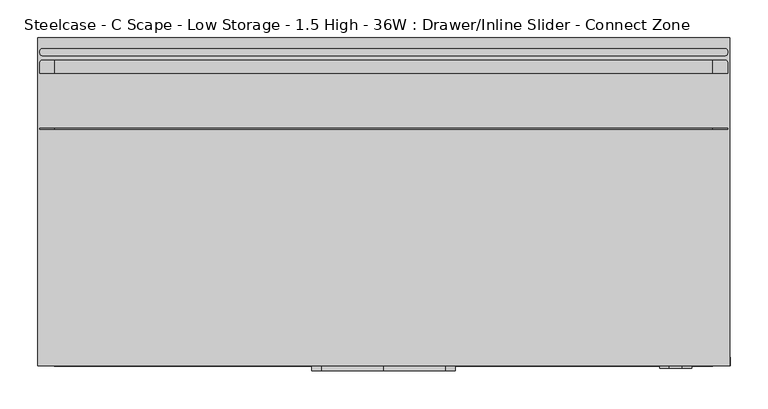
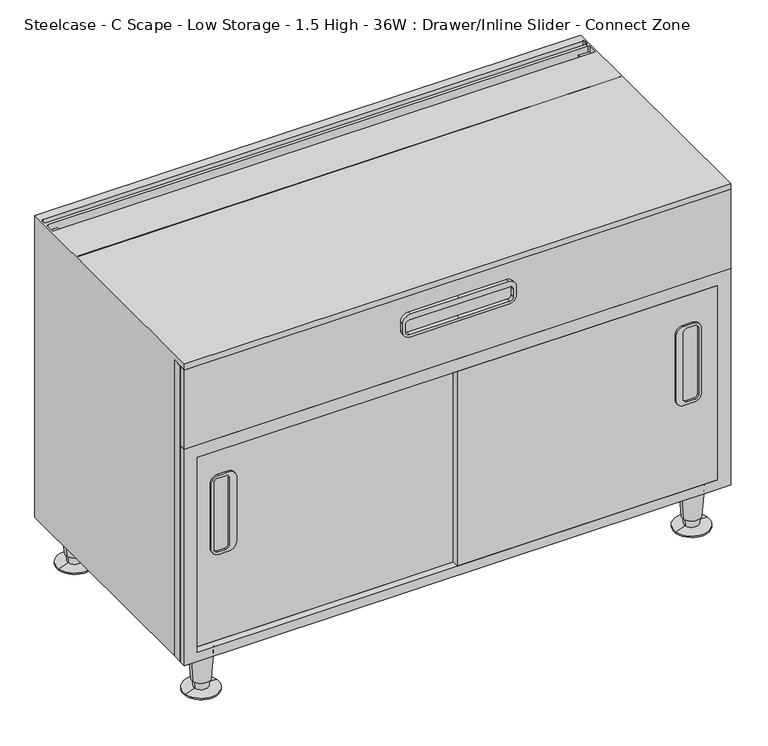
"""IFC4 building model written with IfcOpenShell, lengths in millimetres: furniture geometry, Steelcase - C Scape - Low Storage - 1.5 High - 36W : Drawer/Inline Slider - Connect Zone."""

from ifc_helpers import new_model, si_unit, point, frame, frame_2d, origin, place, context, project, spatial, polyline, circle_curve, trimmed, segment, composite_curve, outline, extrude, source, transform, mapped, element, save
from ifc_brep_helpers import plane_surface, cylinder_surface, revolved_surface, advanced_brep


def steelcase_c_scape_low_storage_1_5_high_36w_drawer_inline_729254a0(model_context):
    return source(origin(), model_context, "Body", "SolidModel", [
        extrude(outline(composite_curve([segment(trimmed(circle_curve(frame_2d((373.5963095, 833.2465039)), 12.7015503), [point((386.2978598, 833.2465039))], [point((373.5963095, 820.5449536))], False, "CARTESIAN"), True, "CONTINUOUS"), segment(polyline([(373.5963095, 820.5449536), (259.2993979, 820.5449536)]), True, "CONTINUOUS"), segment(trimmed(circle_curve(frame_2d((259.2993979, 833.2465039)), 12.7015503), [point((259.2993979, 820.5449536))], [point((246.5978477, 833.2465039))], False, "CARTESIAN"), True, "CONTINUOUS"), segment(polyline([(246.5978477, 833.2465039), (246.5978477, 850.1353895)]), True, "CONTINUOUS"), segment(trimmed(circle_curve(frame_2d((259.2978537, 850.1353895)), 12.7000061), [point((246.5978477, 850.1353895))], [point((259.2978537, 862.8353955))], False, "CARTESIAN"), True, "CONTINUOUS"), segment(polyline([(259.2978537, 862.8353955), (373.6009603, 862.8353955)]), True, "CONTINUOUS"), segment(trimmed(circle_curve(frame_2d((373.6009603, 850.1384961)), 12.6968994), [point((373.6009603, 862.8353955))], [point((386.2978598, 850.1384961))], False, "CARTESIAN"), True, "CONTINUOUS"), segment(polyline([(386.2978598, 850.1384961), (386.2978598, 833.2465039)]), True, "CONTINUOUS")], self_intersect=False), holes=[composite_curve([segment(trimmed(circle_curve(frame_2d((257.7496016, 851.6593335)), 6.3531006), [point((257.7496016, 858.0124341))], [point((251.396501, 851.6593335))], True, "CARTESIAN"), True, "CONTINUOUS"), segment(polyline([(251.396501, 851.6593335), (251.396501, 838.9624341)]), True, "CONTINUOUS"), segment(trimmed(circle_curve(frame_2d((257.7496016, 838.9624341)), 6.3531006), [point((251.396501, 838.9624341))], [point((257.7496016, 832.6093335))], True, "CARTESIAN"), True, "CONTINUOUS"), segment(polyline([(257.7496016, 832.6093335), (375.0913854, 832.6093335)]), True, "CONTINUOUS"), segment(trimmed(circle_curve(frame_2d((375.0913854, 838.9624341)), 6.3531006), [point((375.0913854, 832.6093335))], [point((381.444486, 838.9624341))], True, "CARTESIAN"), True, "CONTINUOUS"), segment(polyline([(381.444486, 838.9624341), (381.444486, 851.6593335)]), True, "CONTINUOUS"), segment(trimmed(circle_curve(frame_2d((375.0913854, 851.6593335)), 6.3531006), [point((381.444486, 851.6593335))], [point((375.0913854, 858.0124341))], True, "CARTESIAN"), True, "CONTINUOUS"), segment(polyline([(375.0913854, 858.0124341), (257.7496016, 858.0124341)]), True, "CONTINUOUS")], self_intersect=False)]), frame((0.0, -436.1182586, 0.0), z_axis=(0.0, 1.0, 0.0), x_axis=(0.0, 0.0, 1.0)), (0.0, 0.0, 1.0), 3.0482586),
        extrude(outline(composite_curve([segment(polyline([(386.2978598, 79.2484961), (386.2978598, 62.3565039)]), True, "CONTINUOUS"), segment(trimmed(circle_curve(frame_2d((373.6009603, 62.3565039)), 12.6968994), [point((386.2978598, 62.3565039))], [point((373.6009603, 49.6596045))], False, "CARTESIAN"), True, "CONTINUOUS"), segment(polyline([(373.6009603, 49.6596045), (259.2978537, 49.6596045)]), True, "CONTINUOUS"), segment(trimmed(circle_curve(frame_2d((259.2978537, 62.3596105)), 12.7000061), [point((259.2978537, 49.6596045))], [point((246.5978477, 62.3596105))], False, "CARTESIAN"), True, "CONTINUOUS"), segment(polyline([(246.5978477, 62.3596105), (246.5978477, 79.2484961)]), True, "CONTINUOUS"), segment(trimmed(circle_curve(frame_2d((259.2993979, 79.2484961)), 12.7015503), [point((246.5978477, 79.2484961))], [point((259.2993979, 91.9500464))], False, "CARTESIAN"), True, "CONTINUOUS"), segment(polyline([(259.2993979, 91.9500464), (373.5963095, 91.9500464)]), True, "CONTINUOUS"), segment(trimmed(circle_curve(frame_2d((373.5963095, 79.2484961)), 12.7015503), [point((373.5963095, 91.9500464))], [point((386.2978598, 79.2484961))], False, "CARTESIAN"), True, "CONTINUOUS")], self_intersect=False), holes=[composite_curve([segment(polyline([(257.7496016, 54.4825659), (375.0913854, 54.4825659)]), True, "CONTINUOUS"), segment(trimmed(circle_curve(frame_2d((375.0913854, 60.8356665)), 6.3531006), [point((375.0913854, 54.4825659))], [point((381.444486, 60.8356665))], True, "CARTESIAN"), True, "CONTINUOUS"), segment(polyline([(381.444486, 60.8356665), (381.444486, 73.5325659)]), True, "CONTINUOUS"), segment(trimmed(circle_curve(frame_2d((375.0913854, 73.5325659)), 6.3531006), [point((381.444486, 73.5325659))], [point((375.0913854, 79.8856665))], True, "CARTESIAN"), True, "CONTINUOUS"), segment(polyline([(375.0913854, 79.8856665), (257.7496016, 79.8856665)]), True, "CONTINUOUS"), segment(trimmed(circle_curve(frame_2d((257.7496016, 73.5325659)), 6.3531006), [point((257.7496016, 79.8856665))], [point((251.396501, 73.5325659))], True, "CARTESIAN"), True, "CONTINUOUS"), segment(polyline([(251.396501, 73.5325659), (251.396501, 60.8356665)]), True, "CONTINUOUS"), segment(trimmed(circle_curve(frame_2d((257.7496016, 60.8356665)), 6.3531006), [point((251.396501, 60.8356665))], [point((257.7496016, 54.4825659))], True, "CARTESIAN"), True, "CONTINUOUS")], self_intersect=False)]), frame((0.0, -424.7213475, 0.0), z_axis=(0.0, 1.0, 0.0), x_axis=(0.0, 0.0, 1.0)), (0.0, 0.0, 1.0), 3.0770066),
        extrude(outline(polyline([(458.7875121, 913.765), (458.7875121, 0.0), (76.2, 0.0), (76.2, 913.765), (458.7875121, 913.765)]), holes=[polyline([(436.8419, 891.1617285), (92.7100024, 891.1617285), (92.7100024, 21.3382324), (436.8419, 21.3382324), (436.8419, 891.1617285)])]), frame((0.0, -433.07, 0.0), z_axis=(0.0, 1.0, 0.0), x_axis=(0.0, 0.0, 1.0)), (0.0, 0.0, 1.0), 11.4256592),
        extrude(outline(polyline([(76.2, 0.0), (76.2, 913.13), (599.44, 913.13), (599.44, 0.0), (76.2, 0.0)]), holes=[polyline([(458.7875121, 891.1617285), (458.7875121, 21.3382324), (582.93, 21.3382324), (582.93, 891.1617285), (458.7875121, 891.1617285)]), polyline([(92.7100024, 891.1617285), (92.7100024, 21.3382324), (436.8419, 21.3382324), (436.8419, 891.1617285), (92.7100024, 891.1617285)])]), frame((0.0, -421.6443408, 0.0), z_axis=(0.0, 1.0, 0.0), x_axis=(0.0, 0.0, 1.0)), (0.0, 0.0, 1.0), 17.2762904),
        extrude(outline(composite_curve([segment(trimmed(circle_curve(frame_2d((558.165, 374.0147442)), 12.7), [point((570.865, 374.0147442))], [point((558.165, 361.3147442))], False, "CARTESIAN"), True, "CONTINUOUS"), segment(polyline([(558.165, 361.3147442), (543.5600291, 361.3147442)]), True, "CONTINUOUS"), segment(trimmed(circle_curve(frame_2d((543.5600291, 374.0147442)), 12.7), [point((543.5600291, 361.3147442))], [point((530.8600291, 374.0147442))], False, "CARTESIAN"), True, "CONTINUOUS"), segment(polyline([(530.8600291, 374.0147442), (530.8600291, 456.2475), (530.8600291, 538.4802558)]), True, "CONTINUOUS"), segment(trimmed(circle_curve(frame_2d((543.5600291, 538.4802558)), 12.7), [point((530.8600291, 538.4802558))], [point((543.5600291, 551.1802558))], False, "CARTESIAN"), True, "CONTINUOUS"), segment(polyline([(543.5600291, 551.1802558), (558.165, 551.1802558)]), True, "CONTINUOUS"), segment(trimmed(circle_curve(frame_2d((558.165, 538.4802558)), 12.7), [point((558.165, 551.1802558))], [point((570.865, 538.4802558))], False, "CARTESIAN"), True, "CONTINUOUS"), segment(polyline([(570.865, 538.4802558), (570.865, 456.2475), (570.865, 374.0147442)]), True, "CONTINUOUS")], self_intersect=False), holes=[composite_curve([segment(trimmed(circle_curve(frame_2d((554.7360184, 372.4923565)), 6.35), [point((554.7360184, 366.1423565))], [point((561.0860184, 372.4923565))], True, "CARTESIAN"), True, "CONTINUOUS"), segment(polyline([(561.0860184, 372.4923565), (561.0860184, 456.2475), (561.0860184, 540.0026435)]), True, "CONTINUOUS"), segment(trimmed(circle_curve(frame_2d((554.7360184, 540.0026435)), 6.35), [point((561.0860184, 540.0026435))], [point((554.7360184, 546.3526435))], True, "CARTESIAN"), True, "CONTINUOUS"), segment(polyline([(554.7360184, 546.3526435), (542.0360063, 546.3526435)]), True, "CONTINUOUS"), segment(trimmed(circle_curve(frame_2d((542.0360063, 540.0026435)), 6.35), [point((542.0360063, 546.3526435))], [point((535.6860063, 540.0026435))], True, "CARTESIAN"), True, "CONTINUOUS"), segment(polyline([(535.6860063, 540.0026435), (535.6860063, 456.2475), (535.6860063, 372.4923565)]), True, "CONTINUOUS"), segment(trimmed(circle_curve(frame_2d((542.0360063, 372.4923565)), 6.35), [point((535.6860063, 372.4923565))], [point((542.0360063, 366.1423565))], True, "CARTESIAN"), True, "CONTINUOUS"), segment(polyline([(542.0360063, 366.1423565), (554.7360184, 366.1423565)]), True, "CONTINUOUS")], self_intersect=False)]), frame((0.0, -439.42, 0.0), z_axis=(0.0, 1.0, 0.0), x_axis=(0.0, 0.0, 1.0)), (0.0, 0.0, 1.0), 6.35),
        advanced_brep(
        [(885.8598695, -31.5218435, 76.2), (848.1981305, -37.2840847, 76.2), (867.029, -34.4029641, 76.2), (881.9095214, -32.1262463, 19.05), (852.1484786, -36.6796819, 19.05), (879.4799345, -32.4979728, 19.05), (854.5780655, -36.3079555, 19.05), (878.791165, -32.6033544, 5.7545598), (855.266835, -36.2025738, 5.7545598), (896.1400485, -29.9489775, 2.5119506), (837.9179515, -38.8569507, 2.5119506), (896.1400485, -29.9489775, 0.0), (837.9179515, -38.8569507, 0.0), (867.029, -34.4029641, 0.0)],
        [
            (0, 1, circle_curve(frame((867.029, -34.4029641, 76.2), z_axis=(0.0, 0.0, 1.0), x_axis=(0.0, -1.0, 0.0)), 19.05)),
            (1, 2),
            (2, 0),
            (1, 0, circle_curve(frame((867.029, -34.4029641, 76.2), z_axis=(0.0, 0.0, 1.0), x_axis=(0.0, -1.0, 0.0)), 19.05)),
            (3, 4, circle_curve(frame((867.029, -34.4029641, 19.05), z_axis=(0.0, 0.0, 1.0), x_axis=(0.0, -1.0, 0.0)), 15.0536827)),
            (4, 1),
            (0, 3),
            (4, 3, circle_curve(frame((867.029, -34.4029641, 19.05), z_axis=(0.0, 0.0, 1.0), x_axis=(0.0, -1.0, 0.0)), 15.0536827)),
            (5, 6, circle_curve(frame((867.029, -34.4029641, 19.05), z_axis=(0.0, 0.0, 1.0), x_axis=(0.0, -1.0, 0.0)), 12.5958232)),
            (6, 4),
            (3, 5),
            (6, 5, circle_curve(frame((867.029, -34.4029641, 19.05), z_axis=(0.0, 0.0, 1.0), x_axis=(0.0, -1.0, 0.0)), 12.5958232)),
            (7, 8, circle_curve(frame((867.029, -34.4029641, 5.7545598), z_axis=(0.0, 0.0, 1.0), x_axis=(0.0, -1.0, 0.0)), 11.8990387)),
            (8, 6),
            (5, 7),
            (8, 7, circle_curve(frame((867.029, -34.4029641, 5.7545598), z_axis=(0.0, 0.0, 1.0), x_axis=(0.0, -1.0, 0.0)), 11.8990387)),
            (9, 10, circle_curve(frame((867.029, -34.4029641, 2.5119506), z_axis=(0.0, 0.0, 1.0), x_axis=(0.0, -1.0, 0.0)), 29.4498071)),
            (10, 8),
            (7, 9),
            (10, 9, circle_curve(frame((867.029, -34.4029641, 2.5119506), z_axis=(0.0, 0.0, 1.0), x_axis=(0.0, -1.0, 0.0)), 29.4498071)),
            (11, 12, circle_curve(frame((867.029, -34.4029641, 0.0), z_axis=(0.0, 0.0, 1.0), x_axis=(0.0, -1.0, 0.0)), 29.4498071)),
            (12, 10),
            (9, 11),
            (12, 11, circle_curve(frame((867.029, -34.4029641, 0.0), z_axis=(0.0, 0.0, 1.0), x_axis=(0.0, -1.0, 0.0)), 29.4498071)),
            (13, 12),
            (11, 13),
        ],
        [
            plane_surface(frame((867.029, -34.4029641, 76.2), z_axis=(0.0, 0.0, 1.0), x_axis=(0.0, -1.0, 0.0))),
            revolved_surface(polyline([(867.029, -53.4529641, 76.2), (867.029, -49.4566468, 19.05)]), (867.029, -34.4029641, 25.4), (0.0, 0.0, -1.0)),
            plane_surface(frame((867.029, -34.4029641, 19.05), z_axis=(0.0, 0.0, -1.0), x_axis=(0.0, -1.0, 0.0))),
            revolved_surface(polyline([(867.029, -46.9987873, 19.05), (867.029, -46.3020028, 5.7545598)]), (867.029, -34.4029641, 25.4), (0.0, 0.0, -1.0)),
            revolved_surface(polyline([(867.029, -46.3020028, 5.7545598), (867.029, -63.8527712, 2.5119506)]), (867.029, -34.4029641, 25.4), (0.0, 0.0, -1.0)),
            cylinder_surface(frame((867.029, -34.4029641, 25.4), z_axis=(0.0, 0.0, -1.0), x_axis=(0.0, -1.0, 0.0)), 29.4498071),
            plane_surface(frame((867.029, -34.4029641, 0.0), z_axis=(0.0, 0.0, -1.0), x_axis=(0.0, -1.0, 0.0))),
        ],
        [
            (0, [[1, 2, 3]]),
            (0, [[4, -3, -2]]),
            (1, [[5, 6, -1, 7]]),
            (1, [[8, -7, -4, -6]]),
            (2, [[9, 10, -5, 11]]),
            (2, [[12, -11, -8, -10]]),
            (3, [[13, 14, -9, 15]]),
            (3, [[16, -15, -12, -14]]),
            (4, [[17, 18, -13, 19]]),
            (4, [[20, -19, -16, -18]]),
            (5, [[21, 22, -17, 23]]),
            (5, [[24, -23, -20, -22]]),
            (6, [[25, -21, 26]]),
            (6, [[-26, -24, -25]]),
        ],
    ),
        advanced_brep(
        [(885.8598695, -397.1702762, 76.2), (848.1981305, -402.9325174, 76.2), (867.029, -400.0513968, 76.2), (881.9095214, -397.774679, 19.05), (852.1484786, -402.3281146, 19.05), (879.4799345, -398.1464055, 19.05), (854.5780655, -401.9563882, 19.05), (878.791165, -398.2517871, 5.7545598), (855.266835, -401.8510065, 5.7545598), (896.1400485, -395.5974102, 2.5119506), (837.9179515, -404.5053834, 2.5119506), (896.1400485, -395.5974102, 0.0), (837.9179515, -404.5053834, 0.0), (867.029, -400.0513968, 0.0)],
        [
            (0, 1, circle_curve(frame((867.029, -400.0513968, 76.2), z_axis=(0.0, 0.0, 1.0), x_axis=(0.0, -1.0, 0.0)), 19.05)),
            (1, 2),
            (2, 0),
            (1, 0, circle_curve(frame((867.029, -400.0513968, 76.2), z_axis=(0.0, 0.0, 1.0), x_axis=(0.0, -1.0, 0.0)), 19.05)),
            (3, 4, circle_curve(frame((867.029, -400.0513968, 19.05), z_axis=(0.0, 0.0, 1.0), x_axis=(0.0, -1.0, 0.0)), 15.0536827)),
            (4, 1),
            (0, 3),
            (4, 3, circle_curve(frame((867.029, -400.0513968, 19.05), z_axis=(0.0, 0.0, 1.0), x_axis=(0.0, -1.0, 0.0)), 15.0536827)),
            (5, 6, circle_curve(frame((867.029, -400.0513968, 19.05), z_axis=(0.0, 0.0, 1.0), x_axis=(0.0, -1.0, 0.0)), 12.5958232)),
            (6, 4),
            (3, 5),
            (6, 5, circle_curve(frame((867.029, -400.0513968, 19.05), z_axis=(0.0, 0.0, 1.0), x_axis=(0.0, -1.0, 0.0)), 12.5958232)),
            (7, 8, circle_curve(frame((867.029, -400.0513968, 5.7545598), z_axis=(0.0, 0.0, 1.0), x_axis=(0.0, -1.0, 0.0)), 11.8990387)),
            (8, 6),
            (5, 7),
            (8, 7, circle_curve(frame((867.029, -400.0513968, 5.7545598), z_axis=(0.0, 0.0, 1.0), x_axis=(0.0, -1.0, 0.0)), 11.8990387)),
            (9, 10, circle_curve(frame((867.029, -400.0513968, 2.5119506), z_axis=(0.0, 0.0, 1.0), x_axis=(0.0, -1.0, 0.0)), 29.4498071)),
            (10, 8),
            (7, 9),
            (10, 9, circle_curve(frame((867.029, -400.0513968, 2.5119506), z_axis=(0.0, 0.0, 1.0), x_axis=(0.0, -1.0, 0.0)), 29.4498071)),
            (11, 12, circle_curve(frame((867.029, -400.0513968, 0.0), z_axis=(0.0, 0.0, 1.0), x_axis=(0.0, -1.0, 0.0)), 29.4498071)),
            (12, 10),
            (9, 11),
            (12, 11, circle_curve(frame((867.029, -400.0513968, 0.0), z_axis=(0.0, 0.0, 1.0), x_axis=(0.0, -1.0, 0.0)), 29.4498071)),
            (13, 12),
            (11, 13),
        ],
        [
            plane_surface(frame((867.029, -400.0513968, 76.2), z_axis=(0.0, 0.0, 1.0), x_axis=(0.0, -1.0, 0.0))),
            revolved_surface(polyline([(867.029, -419.1013968, 76.2), (867.029, -415.1050795, 19.05)]), (867.029, -400.0513968, 25.4), (0.0, 0.0, -1.0)),
            plane_surface(frame((867.029, -400.0513968, 19.05), z_axis=(0.0, 0.0, -1.0), x_axis=(0.0, -1.0, 0.0))),
            revolved_surface(polyline([(867.029, -412.64722, 19.05), (867.029, -411.9504355, 5.7545598)]), (867.029, -400.0513968, 25.4), (0.0, 0.0, -1.0)),
            revolved_surface(polyline([(867.029, -411.9504355, 5.7545598), (867.029, -429.5012039, 2.5119506)]), (867.029, -400.0513968, 25.4), (0.0, 0.0, -1.0)),
            cylinder_surface(frame((867.029, -400.0513968, 25.4), z_axis=(0.0, 0.0, -1.0), x_axis=(0.0, -1.0, 0.0)), 29.4498071),
            plane_surface(frame((867.029, -400.0513968, 0.0), z_axis=(0.0, 0.0, -1.0), x_axis=(0.0, -1.0, 0.0))),
        ],
        [
            (0, [[1, 2, 3]]),
            (0, [[4, -3, -2]]),
            (1, [[5, 6, -1, 7]]),
            (1, [[8, -7, -4, -6]]),
            (2, [[9, 10, -5, 11]]),
            (2, [[12, -11, -8, -10]]),
            (3, [[13, 14, -9, 15]]),
            (3, [[16, -15, -12, -14]]),
            (4, [[17, 18, -13, 19]]),
            (4, [[20, -19, -16, -18]]),
            (5, [[21, 22, -17, 23]]),
            (5, [[24, -23, -20, -22]]),
            (6, [[25, -21, 26]]),
            (6, [[-26, -24, -25]]),
        ],
    ),
        advanced_brep(
        [(65.5422821, -397.1702762, 76.2), (27.8805432, -402.9325174, 76.2), (46.7114126, -400.0513968, 76.2), (61.5919341, -397.774679, 19.05), (31.8308912, -402.3281146, 19.05), (59.1623471, -398.1464055, 19.05), (34.2604781, -401.9563882, 19.05), (58.4735776, -398.2517871, 5.7545598), (34.9492476, -401.8510065, 5.7545598), (75.8224611, -395.5974102, 2.5119506), (17.6003641, -404.5053834, 2.5119506), (75.8224611, -395.5974102, 0.0), (17.6003641, -404.5053834, 0.0), (46.7114126, -400.0513968, 0.0)],
        [
            (0, 1, circle_curve(frame((46.7114126, -400.0513968, 76.2), z_axis=(0.0, 0.0, 1.0), x_axis=(0.0, -1.0, 0.0)), 19.05)),
            (1, 2),
            (2, 0),
            (1, 0, circle_curve(frame((46.7114126, -400.0513968, 76.2), z_axis=(0.0, 0.0, 1.0), x_axis=(0.0, -1.0, 0.0)), 19.05)),
            (3, 4, circle_curve(frame((46.7114126, -400.0513968, 19.05), z_axis=(0.0, 0.0, 1.0), x_axis=(0.0, -1.0, 0.0)), 15.0536827)),
            (4, 1),
            (0, 3),
            (4, 3, circle_curve(frame((46.7114126, -400.0513968, 19.05), z_axis=(0.0, 0.0, 1.0), x_axis=(0.0, -1.0, 0.0)), 15.0536827)),
            (5, 6, circle_curve(frame((46.7114126, -400.0513968, 19.05), z_axis=(0.0, 0.0, 1.0), x_axis=(0.0, -1.0, 0.0)), 12.5958232)),
            (6, 4),
            (3, 5),
            (6, 5, circle_curve(frame((46.7114126, -400.0513968, 19.05), z_axis=(0.0, 0.0, 1.0), x_axis=(0.0, -1.0, 0.0)), 12.5958232)),
            (7, 8, circle_curve(frame((46.7114126, -400.0513968, 5.7545598), z_axis=(0.0, 0.0, 1.0), x_axis=(0.0, -1.0, 0.0)), 11.8990387)),
            (8, 6),
            (5, 7),
            (8, 7, circle_curve(frame((46.7114126, -400.0513968, 5.7545598), z_axis=(0.0, 0.0, 1.0), x_axis=(0.0, -1.0, 0.0)), 11.8990387)),
            (9, 10, circle_curve(frame((46.7114126, -400.0513968, 2.5119506), z_axis=(0.0, 0.0, 1.0), x_axis=(0.0, -1.0, 0.0)), 29.4498071)),
            (10, 8),
            (7, 9),
            (10, 9, circle_curve(frame((46.7114126, -400.0513968, 2.5119506), z_axis=(0.0, 0.0, 1.0), x_axis=(0.0, -1.0, 0.0)), 29.4498071)),
            (11, 12, circle_curve(frame((46.7114126, -400.0513968, 0.0), z_axis=(0.0, 0.0, 1.0), x_axis=(0.0, -1.0, 0.0)), 29.4498071)),
            (12, 10),
            (9, 11),
            (12, 11, circle_curve(frame((46.7114126, -400.0513968, 0.0), z_axis=(0.0, 0.0, 1.0), x_axis=(0.0, -1.0, 0.0)), 29.4498071)),
            (13, 12),
            (11, 13),
        ],
        [
            plane_surface(frame((46.7114126, -400.0513968, 76.2), z_axis=(0.0, 0.0, 1.0), x_axis=(0.0, -1.0, 0.0))),
            revolved_surface(polyline([(46.7114126, -419.1013968, 76.2), (46.7114126, -415.1050795, 19.05)]), (46.7114126, -400.0513968, 25.4), (0.0, 0.0, -1.0)),
            plane_surface(frame((46.7114126, -400.0513968, 19.05), z_axis=(0.0, 0.0, -1.0), x_axis=(0.0, -1.0, 0.0))),
            revolved_surface(polyline([(46.7114126, -412.64722, 19.05), (46.7114126, -411.9504355, 5.7545598)]), (46.7114126, -400.0513968, 25.4), (0.0, 0.0, -1.0)),
            revolved_surface(polyline([(46.7114126, -411.9504355, 5.7545598), (46.7114126, -429.5012039, 2.5119506)]), (46.7114126, -400.0513968, 25.4), (0.0, 0.0, -1.0)),
            cylinder_surface(frame((46.7114126, -400.0513968, 25.4), z_axis=(0.0, 0.0, -1.0), x_axis=(0.0, -1.0, 0.0)), 29.4498071),
            plane_surface(frame((46.7114126, -400.0513968, 0.0), z_axis=(0.0, 0.0, -1.0), x_axis=(0.0, -1.0, 0.0))),
        ],
        [
            (0, [[1, 2, 3]]),
            (0, [[4, -3, -2]]),
            (1, [[5, 6, -1, 7]]),
            (1, [[8, -7, -4, -6]]),
            (2, [[9, 10, -5, 11]]),
            (2, [[12, -11, -8, -10]]),
            (3, [[13, 14, -9, 15]]),
            (3, [[16, -15, -12, -14]]),
            (4, [[17, 18, -13, 19]]),
            (4, [[20, -19, -16, -18]]),
            (5, [[21, 22, -17, 23]]),
            (5, [[24, -23, -20, -22]]),
            (6, [[25, -21, 26]]),
            (6, [[-26, -24, -25]]),
        ],
    ),
        advanced_brep(
        [(65.5422821, -31.5218435, 76.2), (27.8805432, -37.2840847, 76.2), (46.7114126, -34.4029641, 76.2), (61.5919341, -32.1262463, 19.05), (31.8308912, -36.6796819, 19.05), (59.1623471, -32.4979728, 19.05), (34.2604781, -36.3079555, 19.05), (58.4735776, -32.6033544, 5.7545598), (34.9492476, -36.2025738, 5.7545598), (75.8224611, -29.9489775, 2.5119506), (17.6003641, -38.8569507, 2.5119506), (75.8224611, -29.9489775, 0.0), (17.6003641, -38.8569507, 0.0), (46.7114126, -34.4029641, 0.0)],
        [
            (0, 1, circle_curve(frame((46.7114126, -34.4029641, 76.2), z_axis=(0.0, 0.0, 1.0), x_axis=(0.0, -1.0, 0.0)), 19.05)),
            (1, 2),
            (2, 0),
            (1, 0, circle_curve(frame((46.7114126, -34.4029641, 76.2), z_axis=(0.0, 0.0, 1.0), x_axis=(0.0, -1.0, 0.0)), 19.05)),
            (3, 4, circle_curve(frame((46.7114126, -34.4029641, 19.05), z_axis=(0.0, 0.0, 1.0), x_axis=(0.0, -1.0, 0.0)), 15.0536827)),
            (4, 1),
            (0, 3),
            (4, 3, circle_curve(frame((46.7114126, -34.4029641, 19.05), z_axis=(0.0, 0.0, 1.0), x_axis=(0.0, -1.0, 0.0)), 15.0536827)),
            (5, 6, circle_curve(frame((46.7114126, -34.4029641, 19.05), z_axis=(0.0, 0.0, 1.0), x_axis=(0.0, -1.0, 0.0)), 12.5958232)),
            (6, 4),
            (3, 5),
            (6, 5, circle_curve(frame((46.7114126, -34.4029641, 19.05), z_axis=(0.0, 0.0, 1.0), x_axis=(0.0, -1.0, 0.0)), 12.5958232)),
            (7, 8, circle_curve(frame((46.7114126, -34.4029641, 5.7545598), z_axis=(0.0, 0.0, 1.0), x_axis=(0.0, -1.0, 0.0)), 11.8990387)),
            (8, 6),
            (5, 7),
            (8, 7, circle_curve(frame((46.7114126, -34.4029641, 5.7545598), z_axis=(0.0, 0.0, 1.0), x_axis=(0.0, -1.0, 0.0)), 11.8990387)),
            (9, 10, circle_curve(frame((46.7114126, -34.4029641, 2.5119506), z_axis=(0.0, 0.0, 1.0), x_axis=(0.0, -1.0, 0.0)), 29.4498071)),
            (10, 8),
            (7, 9),
            (10, 9, circle_curve(frame((46.7114126, -34.4029641, 2.5119506), z_axis=(0.0, 0.0, 1.0), x_axis=(0.0, -1.0, 0.0)), 29.4498071)),
            (11, 12, circle_curve(frame((46.7114126, -34.4029641, 0.0), z_axis=(0.0, 0.0, 1.0), x_axis=(0.0, -1.0, 0.0)), 29.4498071)),
            (12, 10),
            (9, 11),
            (12, 11, circle_curve(frame((46.7114126, -34.4029641, 0.0), z_axis=(0.0, 0.0, 1.0), x_axis=(0.0, -1.0, 0.0)), 29.4498071)),
            (13, 12),
            (11, 13),
        ],
        [
            plane_surface(frame((46.7114126, -34.4029641, 76.2), z_axis=(0.0, 0.0, 1.0), x_axis=(0.0, -1.0, 0.0))),
            revolved_surface(polyline([(46.7114126, -53.4529641, 76.2), (46.7114126, -49.4566468, 19.05)]), (46.7114126, -34.4029641, 25.4), (0.0, 0.0, -1.0)),
            plane_surface(frame((46.7114126, -34.4029641, 19.05), z_axis=(0.0, 0.0, -1.0), x_axis=(0.0, -1.0, 0.0))),
            revolved_surface(polyline([(46.7114126, -46.9987873, 19.05), (46.7114126, -46.3020028, 5.7545598)]), (46.7114126, -34.4029641, 25.4), (0.0, 0.0, -1.0)),
            revolved_surface(polyline([(46.7114126, -46.3020028, 5.7545598), (46.7114126, -63.8527712, 2.5119506)]), (46.7114126, -34.4029641, 25.4), (0.0, 0.0, -1.0)),
            cylinder_surface(frame((46.7114126, -34.4029641, 25.4), z_axis=(0.0, 0.0, -1.0), x_axis=(0.0, -1.0, 0.0)), 29.4498071),
            plane_surface(frame((46.7114126, -34.4029641, 0.0), z_axis=(0.0, 0.0, -1.0), x_axis=(0.0, -1.0, 0.0))),
        ],
        [
            (0, [[1, 2, 3]]),
            (0, [[4, -3, -2]]),
            (1, [[5, 6, -1, 7]]),
            (1, [[8, -7, -4, -6]]),
            (2, [[9, 10, -5, 11]]),
            (2, [[12, -11, -8, -10]]),
            (3, [[13, 14, -9, 15]]),
            (3, [[16, -15, -12, -14]]),
            (4, [[17, 18, -13, 19]]),
            (4, [[20, -19, -16, -18]]),
            (5, [[21, 22, -17, 23]]),
            (5, [[24, -23, -20, -22]]),
            (6, [[25, -21, 26]]),
            (6, [[-26, -24, -25]]),
        ],
    ),
        advanced_brep(
        [(910.3272317, -120.6444193, 609.6), (910.3272317, -119.3775195, 609.6), (910.3272317, -119.3775195, 599.44), (910.3272317, -120.6444193, 599.44), (910.3272317, -46.4703418, 609.6), (910.3272317, -32.274699, 609.6), (910.3272317, -32.274699, 599.44), (910.3272317, -46.4703418, 599.44), (910.3272317, -20.3138654, 609.6), (910.3272317, -17.0388453, 609.6), (910.3272317, -17.0388453, 599.44), (910.3272317, -20.3138654, 599.44), (913.13, 0.0055807, 609.6), (913.13, -433.07, 609.6), (913.13, -433.07, 599.44), (913.13, -404.3680504, 599.44), (913.13, -404.3680504, 76.2), (913.13, 0.0, 76.2), (0.0, -433.07, 609.6), (-0.012551, 0.0055807, 609.6), (907.6308823, -29.5783496, 609.6), (2.7826272, -46.4703418, 609.6), (2.7826272, -32.0458511, 609.6), (5.2501287, -29.5783496, 609.6), (907.3507358, -23.2903613, 609.6), (5.5670648, -23.2903613, 609.6), (2.7826272, -20.5059237, 609.6), (2.7826272, -17.0388453, 609.6), (5.4794022, -14.3420703, 609.6), (907.6304567, -14.3420703, 609.6), (2.7826272, -119.3775195, 609.6), (2.7826272, -120.6444193, 609.6), (0.0, 0.0055807, 76.2), (571.8775189, 0.0055807, 466.2677968), (340.6174811, 0.0055807, 466.2677968), (340.6174811, 0.0055807, 432.6382043), (456.2475, 0.0055807, 432.6382043), (571.8775189, 0.0055807, 432.6382043), (571.8775189, -9.5194193, 466.2677968), (340.6174811, -9.5194193, 466.2677968), (571.8775189, -9.5194193, 450.8499879), (340.6174811, -9.5194193, 450.8499879), (5.2501287, -29.5783496, 599.44), (21.3256814, -29.5783496, 599.44), (21.3256814, -29.5783496, 458.7875121), (891.1617285, -29.5783496, 458.7875121), (891.1617285, -29.5783496, 599.44), (907.6308823, -29.5783496, 599.44), (891.1617285, -119.3775195, 599.44), (21.3256814, -119.3775195, 599.44), (21.3256814, -46.4703418, 599.44), (891.1617285, -46.4703418, 599.44), (907.3507358, -23.2903613, 599.44), (5.5670648, -23.2903613, 599.44), (2.7826272, -20.5059237, 599.44), (2.7826272, -32.0458511, 599.44), (2.7826272, -46.4703418, 599.44), (2.7826272, -119.3775195, 599.44), (5.4794022, -14.3420703, 599.44), (907.6304567, -14.3420703, 599.44), (2.7826272, -17.0388453, 599.44), (21.3256814, -120.6444193, 599.44), (2.7826272, -120.6444193, 599.44), (891.1617285, -120.6444193, 599.44), (21.3256814, -404.3680504, 92.7100024), (891.1617285, -404.3680504, 92.7100024), (891.1617285, -9.5194193, 92.7100024), (21.3256814, -9.5194193, 92.7100024), (0.0, -404.3680504, 76.2), (0.0, -404.3680504, 599.44), (0.0, -433.07, 599.44), (891.1617285, -404.3680504, 599.44), (891.1617285, -404.3680504, 458.7875121), (21.3256814, -404.3680504, 458.7875121), (21.3256814, -404.3680504, 599.44), (21.3256814, -404.3680504, 450.8499879), (891.1617285, -404.3680504, 450.8499879), (21.3256814, -126.9863574, 599.44), (891.1617285, -126.9863574, 599.44), (21.3256814, -126.9863574, 458.7875121), (891.1617285, -126.9863574, 458.7875121), (891.1617285, -120.6444193, 458.7875121), (21.3256814, -120.6444193, 458.7875121), (21.3256814, -9.5194193, 450.8499879), (891.1617285, -9.5194193, 450.8499879), (571.8775189, -9.5194193, 432.6382043), (456.2475, -9.5194193, 432.6382043), (340.6174811, -9.5194193, 432.6382043)],
        [
            (0, 1),
            (1, 2),
            (2, 3),
            (3, 0),
            (4, 5),
            (5, 6),
            (6, 7),
            (7, 4),
            (8, 9),
            (9, 10),
            (10, 11),
            (11, 8),
            (12, 13),
            (13, 14),
            (14, 15),
            (15, 16),
            (16, 17),
            (17, 12),
            (18, 13),
            (12, 19),
            (19, 18),
            (20, 5, circle_curve(frame((907.6308823, -32.274699, 609.6), z_axis=(0.0, 0.0, -1.0), x_axis=(1.0, 0.0, 0.0)), 2.6963494)),
            (4, 21),
            (21, 22),
            (22, 23, circle_curve(frame((5.2501287, -32.0458511, 609.6), z_axis=(0.0, 0.0, -1.0), x_axis=(1.0, 0.0, 0.0)), 2.4675015)),
            (23, 20),
            (8, 24, circle_curve(frame((907.3507358, -20.3138654, 609.6), z_axis=(0.0, 0.0, -1.0), x_axis=(1.0, 0.0, 0.0)), 2.9764959)),
            (24, 25),
            (25, 26, circle_curve(frame((5.5670648, -20.5059237, 609.6), z_axis=(0.0, 0.0, -1.0), x_axis=(1.0, 0.0, 0.0)), 2.7844376)),
            (26, 27),
            (27, 28, circle_curve(frame((5.4794022, -17.0388453, 609.6), z_axis=(0.0, 0.0, -1.0), x_axis=(1.0, 0.0, 0.0)), 2.696775)),
            (28, 29),
            (29, 9, circle_curve(frame((907.6304567, -17.0388453, 609.6), z_axis=(0.0, 0.0, -1.0), x_axis=(1.0, 0.0, 0.0)), 2.696775)),
            (30, 1),
            (0, 31),
            (31, 30),
            (17, 32),
            (32, 19),
            (33, 34),
            (34, 35),
            (35, 36),
            (36, 37),
            (37, 33),
            (33, 38),
            (38, 39),
            (39, 34),
            (38, 40),
            (40, 41),
            (41, 39),
            (23, 42),
            (42, 43),
            (43, 44),
            (44, 45),
            (45, 46),
            (46, 47),
            (47, 20),
            (48, 49),
            (49, 50),
            (50, 51),
            (51, 48),
            (47, 6, circle_curve(frame((907.6308823, -32.274699, 599.44), z_axis=(0.0, 0.0, -1.0), x_axis=(1.0, 0.0, 0.0)), 2.6963494)),
            (11, 52, circle_curve(frame((907.3507358, -20.3138654, 599.44), z_axis=(0.0, 0.0, -1.0), x_axis=(1.0, 0.0, 0.0)), 2.9764959)),
            (52, 24),
            (52, 53),
            (53, 25),
            (53, 54, circle_curve(frame((5.5670648, -20.5059237, 599.44), z_axis=(0.0, 0.0, -1.0), x_axis=(1.0, 0.0, 0.0)), 2.7844376)),
            (54, 26),
            (22, 55),
            (55, 42, circle_curve(frame((5.2501287, -32.0458511, 599.44), z_axis=(0.0, 0.0, -1.0), x_axis=(1.0, 0.0, 0.0)), 2.4675015)),
            (7, 51),
            (50, 56),
            (56, 21),
            (30, 57),
            (57, 49),
            (48, 2),
            (28, 58),
            (58, 59),
            (59, 29),
            (59, 10, circle_curve(frame((907.6304567, -17.0388453, 599.44), z_axis=(0.0, 0.0, -1.0), x_axis=(1.0, 0.0, 0.0)), 2.696775)),
            (27, 60),
            (60, 58, circle_curve(frame((5.4794022, -17.0388453, 599.44), z_axis=(0.0, 0.0, -1.0), x_axis=(1.0, 0.0, 0.0)), 2.696775)),
            (61, 49),
            (57, 62),
            (62, 61),
            (48, 63),
            (63, 3),
            (60, 54),
            (50, 43),
            (55, 56),
            (46, 51),
            (64, 65),
            (65, 66),
            (66, 67),
            (67, 64),
            (16, 68),
            (68, 32),
            (68, 69),
            (69, 70),
            (70, 18),
            (15, 71),
            (71, 72),
            (72, 73),
            (73, 74),
            (74, 69),
            (64, 75),
            (75, 76),
            (76, 65),
            (70, 14),
            (74, 77),
            (77, 78),
            (78, 71),
            (77, 79),
            (79, 80),
            (80, 78),
            (63, 81),
            (81, 82),
            (82, 61),
            (62, 31),
            (44, 82),
            (81, 45),
            (79, 73),
            (72, 80),
            (75, 83),
            (83, 41),
            (40, 84),
            (84, 76),
            (67, 83),
            (84, 66),
            (85, 86),
            (86, 87),
            (87, 41),
            (40, 85),
            (37, 85),
            (36, 86),
            (35, 87),
        ],
        [
            plane_surface(frame((910.3272317, -120.6444193, 609.6), z_axis=(-1.0, 0.0, 0.0), x_axis=(0.0, 0.0, 1.0))),
            plane_surface(frame((913.13, -120.6444193, 609.6), z_axis=(1.0, 0.0, 0.0), x_axis=(0.0, 0.0, -1.0))),
            plane_surface(frame((910.3272317, -120.6444193, 609.6), z_axis=(0.0, 0.0, 1.0), x_axis=(1.0, 0.0, 0.0))),
            plane_surface(frame((910.3272317, 0.0055807, 609.6), z_axis=(0.0, 1.0, 0.0), x_axis=(1.0, 0.0, 0.0))),
            plane_surface(frame((910.3272317, 0.0055807, 466.2677968), z_axis=(0.0, 0.0, -1.0), x_axis=(1.0, 0.0, 0.0))),
            plane_surface(frame((910.3272317, -9.5194193, 466.2677968), z_axis=(0.0, 1.0, 0.0), x_axis=(1.0, 0.0, 0.0))),
            plane_surface(frame((910.3272317, -29.5783496, 458.7875121), z_axis=(0.0, -1.0, 0.0), x_axis=(1.0, 0.0, 0.0))),
            plane_surface(frame((910.3272317, -29.5783496, 599.44), z_axis=(0.0, 0.0, -1.0), x_axis=(1.0, 0.0, 0.0))),
            revolved_surface(polyline([(910.3272317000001, -32.274699, 599.44), (910.3272317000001, -32.274699, 609.6)]), (907.6308823, -32.274699, 599.44), (0.0, 0.0, -1.0)),
            revolved_surface(polyline([(910.3272317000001, -20.3138654, 599.44), (910.3272317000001, -20.3138654, 609.6)]), (907.3507358, -20.3138654, 599.44), (0.0, 0.0, -1.0)),
            plane_surface(frame((907.3507358, -23.2903613, 609.6), z_axis=(0.0, 1.0, 0.0), x_axis=(0.0, 0.0, -1.0))),
            revolved_surface(polyline([(8.3515024, -20.5059237, 599.44), (8.3515024, -20.5059237, 609.6)]), (5.5670648, -20.5059237, 599.44), (0.0, 0.0, -1.0)),
            revolved_surface(polyline([(7.7176302, -32.0458511, 599.44), (7.7176302, -32.0458511, 609.6)]), (5.2501287, -32.0458511, 599.44), (0.0, 0.0, -1.0)),
            plane_surface(frame((910.3272317, -46.4703418, 609.6), z_axis=(0.0, 1.0, 0.0), x_axis=(0.0, 0.0, -1.0))),
            plane_surface(frame((2.7826272, -119.3775195, 609.6), z_axis=(0.0, -1.0, 0.0), x_axis=(0.0, 0.0, -1.0))),
            plane_surface(frame((5.4794022, -14.3420703, 609.6), z_axis=(0.0, -1.0, 0.0), x_axis=(0.0, 0.0, -1.0))),
            revolved_surface(polyline([(910.3272317, -17.0388453, 599.44), (910.3272317, -17.0388453, 609.6)]), (907.6304567, -17.0388453, 41.6295811), (0.0, 0.0, -1.0)),
            revolved_surface(polyline([(8.1761772, -17.0388453, 599.44), (8.1761772, -17.0388453, 609.6)]), (5.4794022, -17.0388453, 41.6295811), (0.0, 0.0, -1.0)),
            plane_surface(frame((910.3272317, 0.0055807, 599.44), z_axis=(0.0, 0.0, 1.0), x_axis=(-1.0, 0.0, 0.0))),
            plane_surface(frame((0.0, 0.0, 92.7100024), z_axis=(0.0, 0.0, 1.0), x_axis=(-1.0, 0.0, 0.0))),
            plane_surface(frame((0.0, 0.0, 76.2), z_axis=(0.0, 0.0, -1.0), x_axis=(1.0, 0.0, 0.0))),
            plane_surface(frame((0.0, 0.0, 92.7100024), z_axis=(-1.0, 0.0, 0.0), x_axis=(0.0, 0.0, -1.0))),
            plane_surface(frame((0.0, -404.3680504, 92.7100024), z_axis=(0.0, -1.0, 0.0), x_axis=(0.0, 0.0, -1.0))),
            plane_surface(frame((913.13, -433.07, 609.6), z_axis=(0.0, -1.0, 0.0), x_axis=(-1.0, 0.0, 0.0))),
            plane_surface(frame((913.13, -433.07, 599.44), z_axis=(0.0, 0.0, -1.0), x_axis=(-1.0, 0.0, 0.0))),
            plane_surface(frame((913.13, -126.9863574, 599.44), z_axis=(0.0, -1.0, 0.0), x_axis=(-1.0, 0.0, 0.0))),
            plane_surface(frame((913.13, -120.6444193, 457.1999955), z_axis=(0.0, 1.0, 0.0), x_axis=(-1.0, 0.0, 0.0))),
            plane_surface(frame((0.0, -9.5194193, 458.7875121), z_axis=(0.0, 0.0, 1.0), x_axis=(-1.0, 0.0, 0.0))),
            plane_surface(frame((0.0, -9.5194193, 450.8499879), z_axis=(0.0, 0.0, -1.0), x_axis=(1.0, 0.0, 0.0))),
            plane_surface(frame((21.3256814, -404.3680504, 599.44), z_axis=(1.0, 0.0, 0.0), x_axis=(0.0, 0.0, -1.0))),
            plane_surface(frame((891.1617285, -9.5194193, 599.44), z_axis=(-1.0, 0.0, 0.0), x_axis=(0.0, 0.0, -1.0))),
            plane_surface(frame((2.7826272, -120.6444193, 599.44), z_axis=(1.0, 0.0, 0.0), x_axis=(0.0, 1.0, 0.0))),
            plane_surface(frame((571.8775189, -9.5194193, 459.9177968), z_axis=(0.0, -1.0, 0.0), x_axis=(0.0, 0.0, -1.0))),
            plane_surface(frame((571.8775189, -9.5194193, 466.2677968), z_axis=(-1.0, 0.0, 0.0), x_axis=(0.0, 1.0, 0.0))),
            plane_surface(frame((571.8775189, -9.5194193, 432.6382043), z_axis=(0.0, 0.0, 1.0), x_axis=(0.0, 1.0, 0.0))),
            plane_surface(frame((456.2475, -9.5194193, 432.6382043), z_axis=(0.0, 0.0, 1.0), x_axis=(0.0, 1.0, 0.0))),
            plane_surface(frame((340.6174811, -9.5194193, 432.6382043), z_axis=(1.0, 0.0, 0.0), x_axis=(0.0, 1.0, 0.0))),
        ],
        [
            (0, [[1, 2, 3, 4]]),
            (0, [[5, 6, 7, 8]]),
            (0, [[9, 10, 11, 12]]),
            (1, [[13, 14, 15, 16, 17, 18]]),
            (2, [[19, -13, 20, 21], [22, -5, 23, 24, 25, 26], [27, 28, 29, 30, 31, 32, 33, -9], [34, -1, 35, 36]]),
            (3, [[-18, 37, 38, -20], [39, 40, 41, 42, 43]]),
            (4, [[-39, 44, 45, 46]]),
            (5, [[-45, 47, 48, 49]]),
            (6, [[-26, 50, 51, 52, 53, 54, 55, 56]]),
            (7, [[57, 58, 59, 60]]),
            (8, [[-22, -56, 61, -6]]),
            (9, [[-27, -12, 62, 63]]),
            (10, [[-28, -63, 64, 65]]),
            (11, [[-29, -65, 66, 67]]),
            (12, [[-25, 68, 69, -50]]),
            (13, [[-23, -8, 70, -59, 71, 72]]),
            (14, [[-34, 73, 74, -57, 75, -2]]),
            (15, [[-32, 76, 77, 78]]),
            (16, [[-33, -78, 79, -10]]),
            (17, [[-31, 80, 81, -76]]),
            (18, [[82, -74, 83, 84]]),
            (18, [[85, 86, -3, -75]]),
            (18, [[-11, -79, -77, -81, 87, -66, -64, -62]]),
            (18, [[88, -51, -69, 89, -71]]),
            (18, [[90, -70, -7, -61, -55]]),
            (19, [[91, 92, 93, 94]]),
            (20, [[-17, 95, 96, -37]]),
            (21, [[-38, -96, 97, 98, 99, -21]]),
            (22, [[-95, -16, 100, 101, 102, 103, 104, -97], [-91, 105, 106, 107]]),
            (23, [[-14, -19, -99, 108]]),
            (24, [[-108, -98, -104, 109, 110, 111, -100, -15]]),
            (25, [[-110, 112, 113, 114]]),
            (26, [[-4, -86, 115, 116, 117, -84, 118, -35]]),
            (27, [[-53, 119, -116, 120]]),
            (27, [[-113, 121, -102, 122]]),
            (28, [[-106, 123, 124, -48, 125, 126]]),
            (29, [[-103, -121, -112, -109]]),
            (29, [[-105, -94, 127, -123]]),
            (29, [[-88, -58, -82, -117, -119, -52]]),
            (30, [[-101, -111, -114, -122]]),
            (30, [[-107, -126, 128, -92]]),
            (30, [[-90, -54, -120, -115, -85, -60]]),
            (31, [[-24, -72, -89, -68]]),
            (31, [[-30, -67, -87, -80]]),
            (31, [[-36, -118, -83, -73]]),
            (32, [[129, 130, 131, -124, -127, -93, -128, -125, 132]]),
            (33, [[-43, 133, -132, -47, -44]]),
            (34, [[-129, -133, -42, 134]]),
            (35, [[-130, -134, -41, 135]]),
            (36, [[-40, -46, -49, -131, -135]]),
        ],
    ),
        extrude(outline(polyline([(913.13, -421.6443408), (913.13, -433.07), (0.0, -433.07), (0.0, -421.6443408), (913.13, -421.6443408)])), frame((0.0, 0.0, 458.7875121), z_axis=(0.0, 0.0, 1.0), x_axis=(1.0, 0.0, 0.0)), (0.0, 0.0, 1.0), 140.6524879),
        extrude(outline(polyline([(456.2475, -421.6443408), (891.1617285, -421.6443408), (891.1617285, -433.07), (456.2475, -433.07), (456.2475, -421.6443408)])), frame((0.0, 0.0, 92.7100024), z_axis=(0.0, 0.0, 1.0), x_axis=(1.0, 0.0, 0.0)), (0.0, 0.0, 1.0), 344.1318976),
        extrude(outline(polyline([(456.2475, -415.2912402), (456.2475, -421.6443408), (21.3382324, -421.6443408), (21.3382324, -415.2912402), (456.2475, -415.2912402)])), frame((0.0, 0.0, 92.7100024), z_axis=(0.0, 0.0, 1.0), x_axis=(1.0, 0.0, 0.0)), (0.0, 0.0, 1.0), 344.1318976),
    ])


if __name__ == "__main__":
    model = new_model("IFC4")
    model_context = context("Model", 3, world=origin())
    ifc_project = project(units=[si_unit("LENGTHUNIT", "METRE", prefix="MILLI")], contexts=[model_context])
    site = spatial("IfcSite", under=ifc_project)
    building = spatial("IfcBuilding", under=site)
    placement = place(None, origin())
    steelcase_c_scape_low_storage_1_5_high_36w_drawer_inline_shape = steelcase_c_scape_low_storage_1_5_high_36w_drawer_inline_729254a0(model_context)
    element("IfcFurniture", 1, ObjectType="Steelcase - C Scape - Low Storage - 1.5 High - 36W : Drawer/Inline Slider - Connect Zone", at=placement, inside=building, context=model_context, shape_type="MappedRepresentation", body=[
        mapped(steelcase_c_scape_low_storage_1_5_high_36w_drawer_inline_shape, transform((0.0, 0.0, 0.0), x_axis=(1.0, 0.0, 0.0), y_axis=(0.0, 1.0, 0.0), z_axis=(0.0, 0.0, 1.0))),
    ])
    save(model, "model.ifc")
